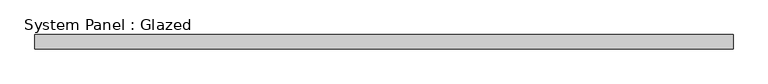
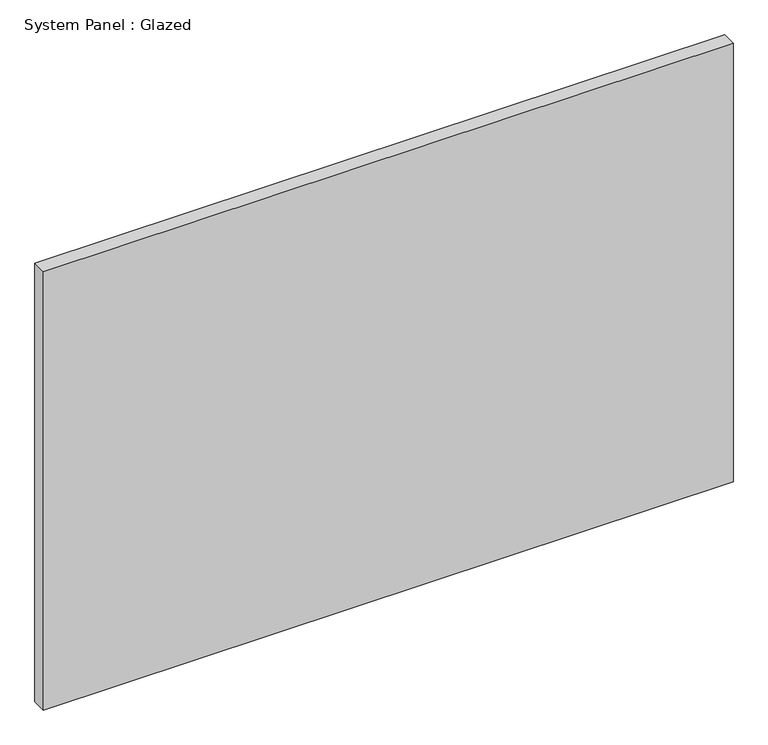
"""IFC4 building model written with IfcOpenShell, lengths in millimetres: plate geometry, System Panel : Glazed."""

from ifc_helpers import new_model, si_unit, origin, origin_with_axes, place, context, project, spatial, polyline, outline, extrude, source, transform, mapped, element, save


def system_panel_glazed_636dec6d(model_context):
    return source(origin(), model_context, "Body", "SweptSolid", [
        extrude(outline(polyline([(609.6, 19.05), (-609.6, 19.05), (-609.6, 44.45), (609.6, 44.45), (609.6, 19.05)])), origin_with_axes(), (0.0, 0.0, 1.0), 819.15),
    ])


if __name__ == "__main__":
    model = new_model("IFC4")
    model_context = context("Model", 3, world=origin())
    ifc_project = project(units=[si_unit("LENGTHUNIT", "METRE", prefix="MILLI")], contexts=[model_context])
    site = spatial("IfcSite", under=ifc_project)
    building = spatial("IfcBuilding", under=site)
    placement = place(None, origin())
    system_panel_glazed_shape = system_panel_glazed_636dec6d(model_context)
    element("IfcPlate", 1, ObjectType="System Panel : Glazed", at=placement, inside=building, context=model_context, shape_type="MappedRepresentation", body=[
        mapped(system_panel_glazed_shape, transform((0.0, 0.0, 0.0), x_axis=(1.0, 0.0, 0.0), y_axis=(0.0, 1.0, 0.0), z_axis=(0.0, 0.0, 1.0))),
    ])
    save(model, "model.ifc")
